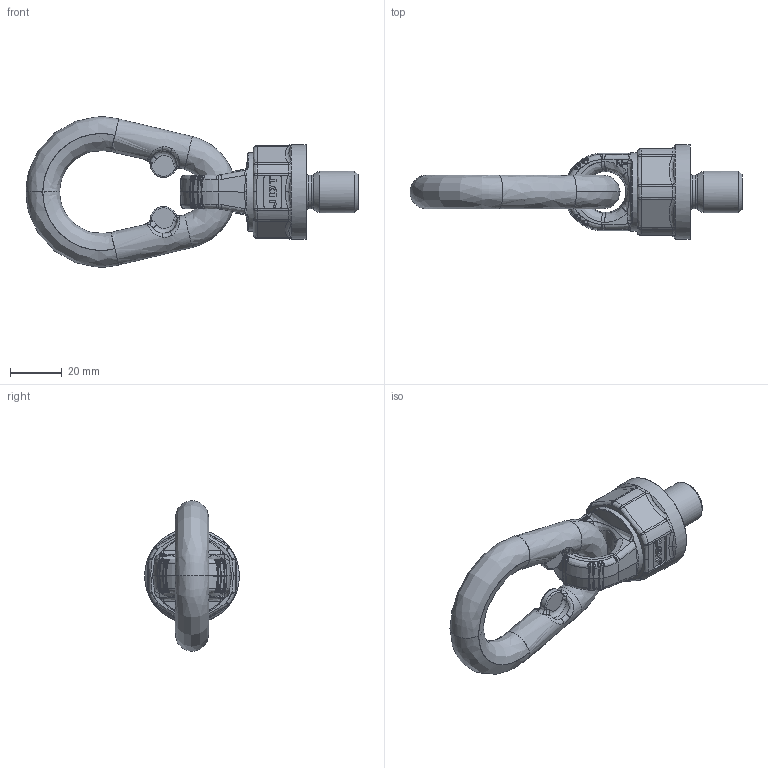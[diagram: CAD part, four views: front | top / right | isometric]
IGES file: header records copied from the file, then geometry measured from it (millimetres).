
Global section: file name: C:\IDEAS\IDEAS-DATEN\Temp\TP1.4_M16x20_senkrecht.igs; preprocessor: I-DEAS 3D IGES Translator 11; date: 20071107.105728; units: millimetre
Bounding box: 128 x 36.5 x 57.95 mm (x, y, z)
Surface area: 15068.2 mm2 (no closed solid volume)
Topology: 0 solids, 0 shells, 570 faces, 2989 edges, 2936 vertices
Faces by surface type: bspline 570
